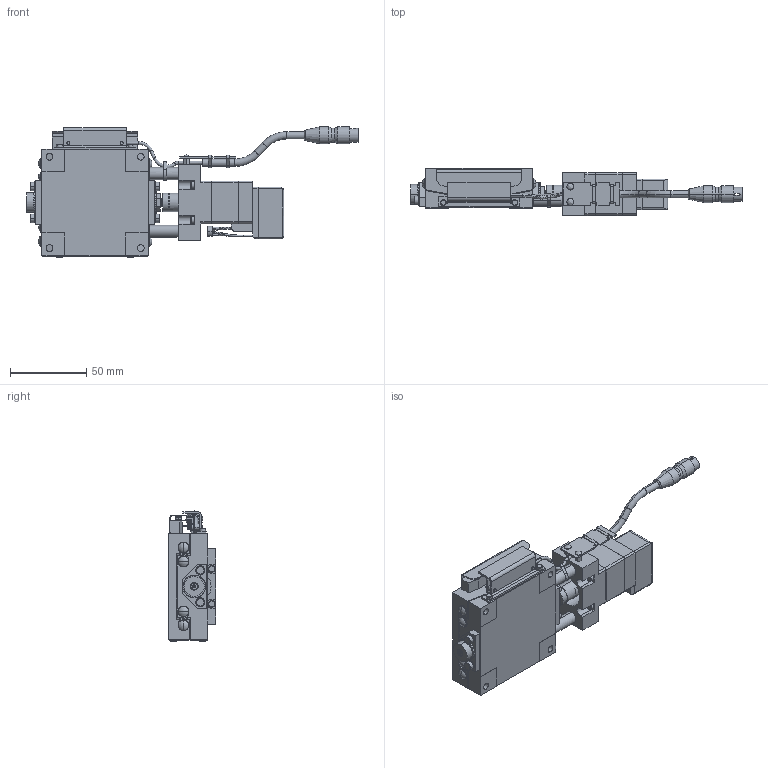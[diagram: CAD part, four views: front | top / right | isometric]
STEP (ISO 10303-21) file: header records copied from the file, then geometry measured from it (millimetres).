
FILE_DESCRIPTION (( 'STEP AP214' ), '1' );
FILE_NAME ('KGB07122AT-RZA.STEP', '2024-04-17T01:12:01', ( '' ), ( '' ), 'SwSTEP 2.0', 'SolidWorks 2017', '' );
FILE_SCHEMA (( 'AUTOMOTIVE_DESIGN' ));
Length unit declared in the file: millimetre
Products named in the file (5): KGB-TOP-07122-R; KGB-BASE-07122-R; KGB07122AT-RZA; KGB-70-T-6-R; KGB-70-ZA
Assembly tree (4 placements, depth 2):
  KGB07122AT-RZA
    KGB-BASE-07122-R
    KGB-TOP-07122-R
    KGB-70-ZA
    KGB-70-T-6-R
Bounding box: 218.2 x 31 x 85.5 mm (x, y, z)
Volume: 190201.2 mm3; surface area: 66320.5 mm2
Topology: 10 solids, 53 shells, 1504 faces, 3769 edges, 2420 vertices
Faces by surface type: plane 750, cylinder 520, cone 116, torus 88, sphere 20, bspline 10
Entity records: 46254 total; most frequent: CARTESIAN_POINT 8839, DIRECTION 8015, ORIENTED_EDGE 7430, EDGE_CURVE 3715, AXIS2_PLACEMENT_3D 2884, VERTEX_POINT 2420, VECTOR 2247, LINE 2247
